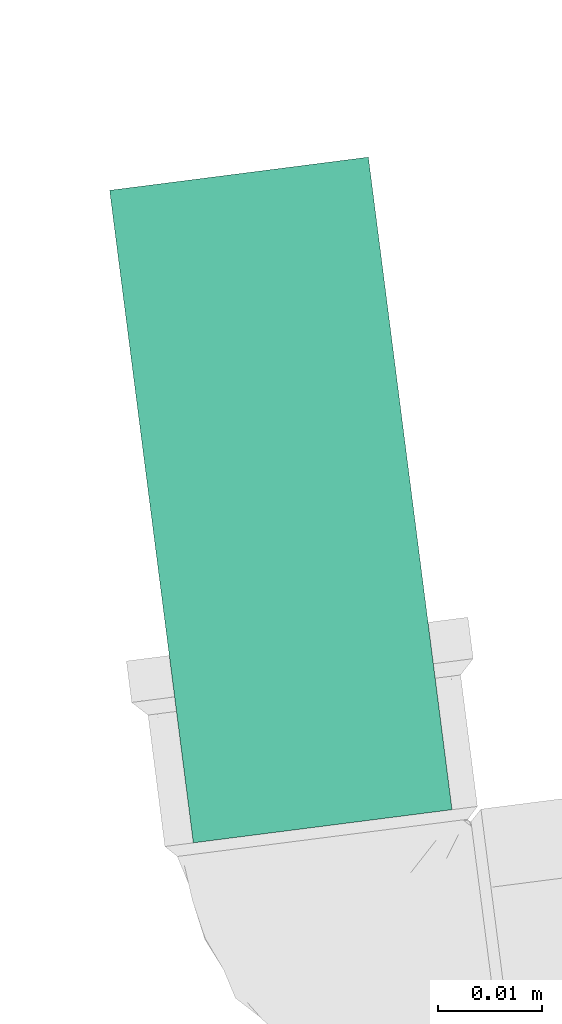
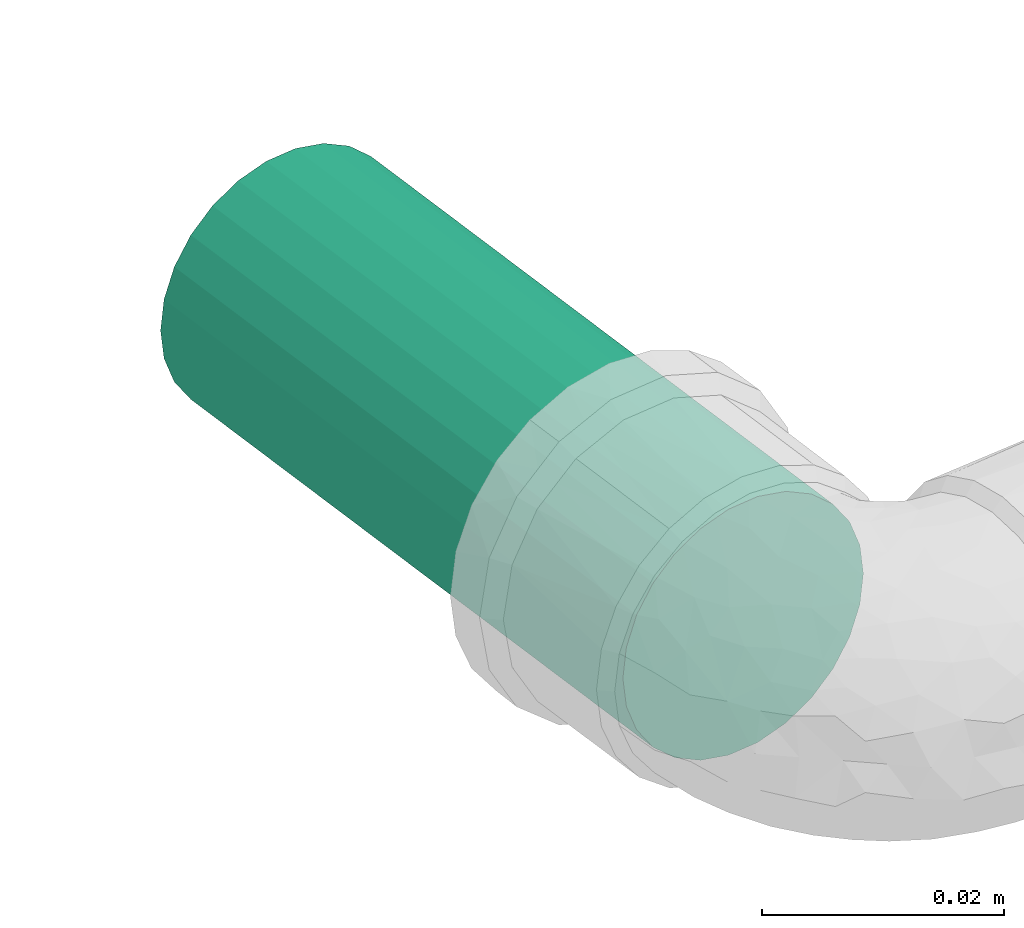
# One storey, part 7 of 8: 1 flow segment.
"""IFC2X3 building model written with IfcOpenShell, lengths in centimetres."""

from ifc_helpers import new_model, entity, si_unit, converted_unit, derived_unit, direction, frame, frame_2d, origin, place, context, subcontext, project, spatial, circle, extrude, type_object, element, save


model = new_model("IFC2X3")

# Units and contexts
model_context = context("Model", 3, precision=0.001, world=origin(), true_north=direction((6.12303176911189e-17, 1.0)))
body_context = subcontext(model_context, "Body", "Model", "MODEL_VIEW")
ifc_project = project(units=[si_unit("LENGTHUNIT", "METRE", prefix="CENTI"), si_unit("AREAUNIT", "SQUARE_METRE"), si_unit("VOLUMEUNIT", "CUBIC_METRE"), converted_unit("PLANEANGLEUNIT", "DEGREE", entity("IfcRatioMeasure", 0.0174532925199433), si_unit("PLANEANGLEUNIT", "RADIAN"), dimensions=[0, 0, 0, 0, 0, 0, 0]), si_unit("MASSUNIT", "GRAM", prefix="KILO"), derived_unit("MASSDENSITYUNIT", [(si_unit("MASSUNIT", "GRAM", prefix="KILO"), 1), (si_unit("LENGTHUNIT", "METRE"), -3)]), derived_unit("MOMENTOFINERTIAUNIT", [(si_unit("LENGTHUNIT", "METRE"), 4)]), si_unit("TIMEUNIT", "SECOND"), si_unit("FREQUENCYUNIT", "HERTZ"), si_unit("THERMODYNAMICTEMPERATUREUNIT", "DEGREE_CELSIUS"), derived_unit("THERMALTRANSMITTANCEUNIT", [(si_unit("MASSUNIT", "GRAM", prefix="KILO"), 1), (si_unit("THERMODYNAMICTEMPERATUREUNIT", "KELVIN"), -1), (si_unit("TIMEUNIT", "SECOND"), -3)]), derived_unit("VOLUMETRICFLOWRATEUNIT", [(si_unit("LENGTHUNIT", "METRE"), 3), (si_unit("TIMEUNIT", "SECOND"), -1)]), si_unit("ELECTRICCURRENTUNIT", "AMPERE"), si_unit("ELECTRICVOLTAGEUNIT", "VOLT"), si_unit("POWERUNIT", "WATT"), si_unit("FORCEUNIT", "NEWTON", prefix="KILO"), si_unit("ILLUMINANCEUNIT", "LUX"), si_unit("LUMINOUSFLUXUNIT", "LUMEN"), si_unit("LUMINOUSINTENSITYUNIT", "CANDELA"), derived_unit("USERDEFINED", [(si_unit("MASSUNIT", "GRAM", prefix="KILO"), -1), (si_unit("LENGTHUNIT", "METRE"), -2), (si_unit("TIMEUNIT", "SECOND"), 3), (si_unit("LUMINOUSFLUXUNIT", "LUMEN"), 1)]), derived_unit("LINEARVELOCITYUNIT", [(si_unit("LENGTHUNIT", "METRE"), 1), (si_unit("TIMEUNIT", "SECOND"), -1)]), si_unit("PRESSUREUNIT", "PASCAL"), derived_unit("USERDEFINED", [(si_unit("LENGTHUNIT", "METRE"), -2), (si_unit("MASSUNIT", "GRAM", prefix="KILO"), 1), (si_unit("TIMEUNIT", "SECOND"), -2)]), derived_unit("LINEARFORCEUNIT", [(si_unit("MASSUNIT", "GRAM", prefix="KILO"), 1), (si_unit("LENGTHUNIT", "METRE"), 1), (si_unit("TIMEUNIT", "SECOND"), -2), (si_unit("LENGTHUNIT", "METRE"), -1)]), derived_unit("PLANARFORCEUNIT", [(si_unit("MASSUNIT", "GRAM", prefix="KILO"), 1), (si_unit("LENGTHUNIT", "METRE"), 1), (si_unit("TIMEUNIT", "SECOND"), -2), (si_unit("LENGTHUNIT", "METRE"), -2)])], contexts=[model_context])

# Site, building, storey
site_placement = place(None, origin())
site = spatial("IfcSite", under=ifc_project, at=site_placement, Name="Default", CompositionType="ELEMENT")
building_placement = place(site_placement, origin())
building = spatial("IfcBuilding", under=site, at=building_placement, Name="HIDROSSANITÁRIO", CompositionType="ELEMENT")
storey_placement = place(building_placement, origin())
storey = spatial("IfcBuildingStorey", under=building, at=storey_placement, Name="TERRENO", CompositionType="ELEMENT", Elevation=0.0)

# Flow segment
pipe_segment_type = type_object("IfcPipeSegmentType", Name="Tipos de tubos:Tubo Marrom - Água Fria - Soldável", PredefinedType="NOTDEFINED")
flow_segment_placement = place(storey_placement, origin())
element("IfcFlowSegment", 1, at=flow_segment_placement, inside=storey, type_object=pipe_segment_type, Name="Tipos de tubos:Tubo Marrom - Água Fria - Soldável", ObjectType="Tipos de tubos:Tubo Marrom - Água Fria - Soldável", context=body_context, shape_type="SweptSolid", body=[
    extrude(circle(Radius=1.25, at=frame_2d((-2.14814639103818e-13, 0.0), x_axis=(1.0, 0.0))), frame((-1799.02391964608, 2882.37973336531, 17.3890188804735), z_axis=(0.127184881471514, -0.991879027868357, 0.0), x_axis=(-0.991879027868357, -0.127184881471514, 0.0)), (0.0, 0.0, 1.0), 6.30523216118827),
])

save(model, "model.ifc")
